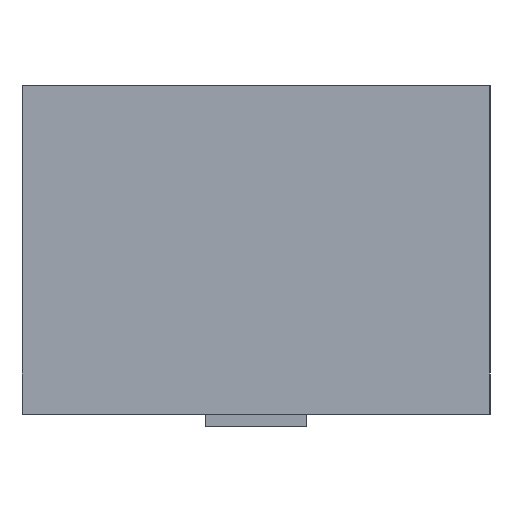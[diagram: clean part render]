
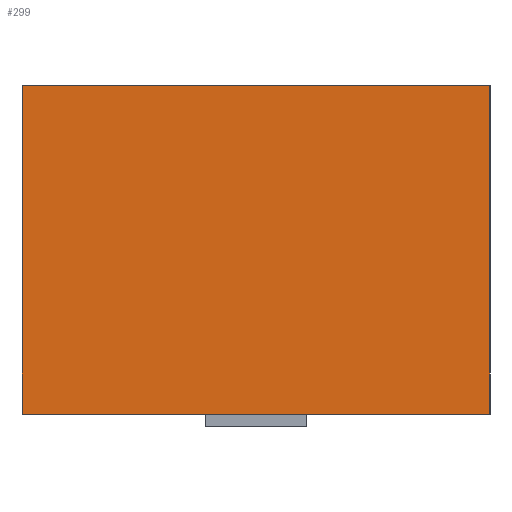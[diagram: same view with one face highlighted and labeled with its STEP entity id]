
A CAD part, left-side view. The second image highlights one B-rep face of the part: STEP entity #299.
In plain terms, the highlighted planar face has unit normal (-1, 0, 0).
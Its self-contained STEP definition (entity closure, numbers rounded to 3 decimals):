
#36 = EDGE_CURVE('',#37,#39,#41,.T.);
#37 = VERTEX_POINT('',#38);
#38 = CARTESIAN_POINT('',(-3.05,1.85,0.));
#39 = VERTEX_POINT('',#40);
#40 = CARTESIAN_POINT('',(-3.05,1.85,2.6));
#41 = SURFACE_CURVE('',#42,(#46,#58),.PCURVE_S1.);
#42 = LINE('',#43,#44);
#43 = CARTESIAN_POINT('',(-3.05,1.85,0.));
#44 = VECTOR('',#45,1.);
#45 = DIRECTION('',(0.,0.,1.));
#46 = PCURVE('',#47,#52);
#47 = PLANE('',#48);
#48 = AXIS2_PLACEMENT_3D('',#49,#50,#51);
#49 = CARTESIAN_POINT('',(-3.05,1.85,0.));
#50 = DIRECTION('',(0.,1.,0.));
#51 = DIRECTION('',(1.,0.,0.));
#52 = DEFINITIONAL_REPRESENTATION('',(#53),#57);
#53 = LINE('',#54,#55);
#54 = CARTESIAN_POINT('',(0.,0.));
#55 = VECTOR('',#56,1.);
#56 = DIRECTION('',(0.,-1.));
#57 = ( GEOMETRIC_REPRESENTATION_CONTEXT(2) 
PARAMETRIC_REPRESENTATION_CONTEXT() REPRESENTATION_CONTEXT('2D SPACE',''
  ) );
#58 = PCURVE('',#59,#64);
#59 = PLANE('',#60);
#60 = AXIS2_PLACEMENT_3D('',#61,#62,#63);
#61 = CARTESIAN_POINT('',(-3.05,-1.85,0.));
#62 = DIRECTION('',(-1.,0.,0.));
#63 = DIRECTION('',(0.,1.,0.));
#64 = DEFINITIONAL_REPRESENTATION('',(#65),#69);
#65 = LINE('',#66,#67);
#66 = CARTESIAN_POINT('',(3.7,0.));
#67 = VECTOR('',#68,1.);
#68 = DIRECTION('',(0.,-1.));
#69 = ( GEOMETRIC_REPRESENTATION_CONTEXT(2) 
PARAMETRIC_REPRESENTATION_CONTEXT() REPRESENTATION_CONTEXT('2D SPACE',''
  ) );
#87 = PLANE('',#88);
#88 = AXIS2_PLACEMENT_3D('',#89,#90,#91);
#89 = CARTESIAN_POINT('',(0.,0.,2.6));
#90 = DIRECTION('',(-0.,-0.,-1.));
#91 = DIRECTION('',(-1.,0.,0.));
#141 = PLANE('',#142);
#142 = AXIS2_PLACEMENT_3D('',#143,#144,#145);
#143 = CARTESIAN_POINT('',(0.,0.,0.));
#144 = DIRECTION('',(-0.,-0.,-1.));
#145 = DIRECTION('',(-1.,0.,0.));
#196 = PLANE('',#197);
#197 = AXIS2_PLACEMENT_3D('',#198,#199,#200);
#198 = CARTESIAN_POINT('',(3.05,-1.85,0.));
#199 = DIRECTION('',(0.,-1.,0.));
#200 = DIRECTION('',(-1.,0.,0.));
#234 = VERTEX_POINT('',#235);
#235 = CARTESIAN_POINT('',(-3.05,-1.85,2.6));
#256 = EDGE_CURVE('',#257,#234,#259,.T.);
#257 = VERTEX_POINT('',#258);
#258 = CARTESIAN_POINT('',(-3.05,-1.85,0.));
#259 = SURFACE_CURVE('',#260,(#264,#271),.PCURVE_S1.);
#260 = LINE('',#261,#262);
#261 = CARTESIAN_POINT('',(-3.05,-1.85,0.));
#262 = VECTOR('',#263,1.);
#263 = DIRECTION('',(0.,0.,1.));
#264 = PCURVE('',#196,#265);
#265 = DEFINITIONAL_REPRESENTATION('',(#266),#270);
#266 = LINE('',#267,#268);
#267 = CARTESIAN_POINT('',(6.1,0.));
#268 = VECTOR('',#269,1.);
#269 = DIRECTION('',(0.,-1.));
#270 = ( GEOMETRIC_REPRESENTATION_CONTEXT(2) 
PARAMETRIC_REPRESENTATION_CONTEXT() REPRESENTATION_CONTEXT('2D SPACE',''
  ) );
#271 = PCURVE('',#59,#272);
#272 = DEFINITIONAL_REPRESENTATION('',(#273),#277);
#273 = LINE('',#274,#275);
#274 = CARTESIAN_POINT('',(0.,0.));
#275 = VECTOR('',#276,1.);
#276 = DIRECTION('',(0.,-1.));
#277 = ( GEOMETRIC_REPRESENTATION_CONTEXT(2) 
PARAMETRIC_REPRESENTATION_CONTEXT() REPRESENTATION_CONTEXT('2D SPACE',''
  ) );
#299 = ADVANCED_FACE('',(#300),#59,.T.);
#300 = FACE_BOUND('',#301,.T.);
#301 = EDGE_LOOP('',(#302,#303,#324,#325));
#302 = ORIENTED_EDGE('',*,*,#256,.T.);
#303 = ORIENTED_EDGE('',*,*,#304,.T.);
#304 = EDGE_CURVE('',#234,#39,#305,.T.);
#305 = SURFACE_CURVE('',#306,(#310,#317),.PCURVE_S1.);
#306 = LINE('',#307,#308);
#307 = CARTESIAN_POINT('',(-3.05,-1.85,2.6));
#308 = VECTOR('',#309,1.);
#309 = DIRECTION('',(0.,1.,0.));
#310 = PCURVE('',#59,#311);
#311 = DEFINITIONAL_REPRESENTATION('',(#312),#316);
#312 = LINE('',#313,#314);
#313 = CARTESIAN_POINT('',(0.,-2.6));
#314 = VECTOR('',#315,1.);
#315 = DIRECTION('',(1.,0.));
#316 = ( GEOMETRIC_REPRESENTATION_CONTEXT(2) 
PARAMETRIC_REPRESENTATION_CONTEXT() REPRESENTATION_CONTEXT('2D SPACE',''
  ) );
#317 = PCURVE('',#87,#318);
#318 = DEFINITIONAL_REPRESENTATION('',(#319),#323);
#319 = LINE('',#320,#321);
#320 = CARTESIAN_POINT('',(3.05,-1.85));
#321 = VECTOR('',#322,1.);
#322 = DIRECTION('',(0.,1.));
#323 = ( GEOMETRIC_REPRESENTATION_CONTEXT(2) 
PARAMETRIC_REPRESENTATION_CONTEXT() REPRESENTATION_CONTEXT('2D SPACE',''
  ) );
#324 = ORIENTED_EDGE('',*,*,#36,.F.);
#325 = ORIENTED_EDGE('',*,*,#326,.F.);
#326 = EDGE_CURVE('',#257,#37,#327,.T.);
#327 = SURFACE_CURVE('',#328,(#332,#339),.PCURVE_S1.);
#328 = LINE('',#329,#330);
#329 = CARTESIAN_POINT('',(-3.05,-1.85,0.));
#330 = VECTOR('',#331,1.);
#331 = DIRECTION('',(0.,1.,0.));
#332 = PCURVE('',#59,#333);
#333 = DEFINITIONAL_REPRESENTATION('',(#334),#338);
#334 = LINE('',#335,#336);
#335 = CARTESIAN_POINT('',(0.,0.));
#336 = VECTOR('',#337,1.);
#337 = DIRECTION('',(1.,0.));
#338 = ( GEOMETRIC_REPRESENTATION_CONTEXT(2) 
PARAMETRIC_REPRESENTATION_CONTEXT() REPRESENTATION_CONTEXT('2D SPACE',''
  ) );
#339 = PCURVE('',#141,#340);
#340 = DEFINITIONAL_REPRESENTATION('',(#341),#345);
#341 = LINE('',#342,#343);
#342 = CARTESIAN_POINT('',(3.05,-1.85));
#343 = VECTOR('',#344,1.);
#344 = DIRECTION('',(0.,1.));
#345 = ( GEOMETRIC_REPRESENTATION_CONTEXT(2) 
PARAMETRIC_REPRESENTATION_CONTEXT() REPRESENTATION_CONTEXT('2D SPACE',''
  ) );
